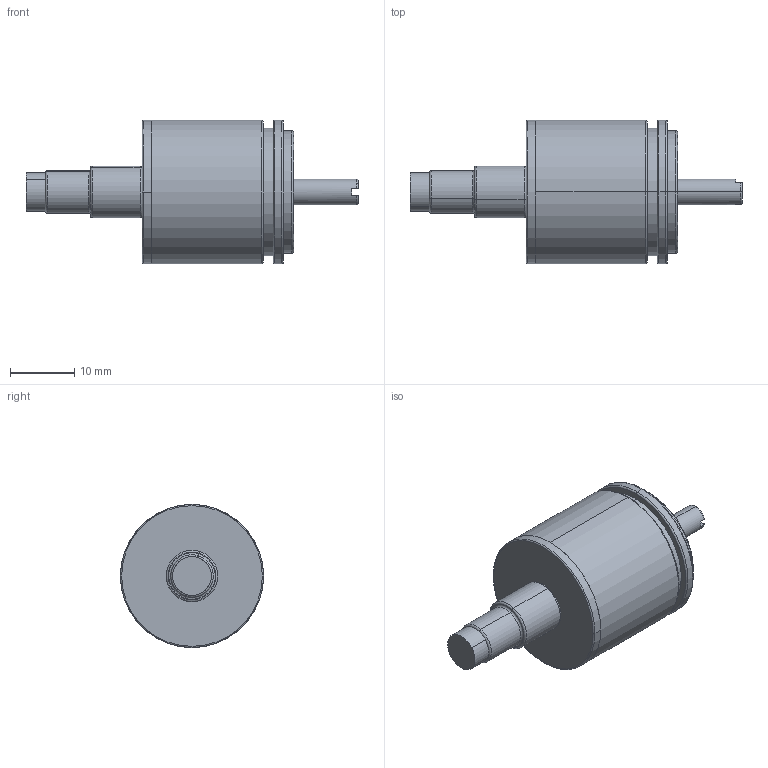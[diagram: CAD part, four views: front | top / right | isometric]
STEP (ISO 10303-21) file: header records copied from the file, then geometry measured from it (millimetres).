
FILE_DESCRIPTION (( 'STEP AP214' ), '1' );
FILE_NAME ('MAB22_axial.STEP', '2011-09-26T07:59:56', ( 'Mega' ), ( '' ), 'SwSTEP 2.0', 'SolidWorks 2007', '' );
FILE_SCHEMA (( 'AUTOMOTIVE_DESIGN' ));
Length unit declared in the file: millimetre
Products named in the file (1): MAB22_axial
Bounding box: 51.5 x 22.23 x 22.23 mm (x, y, z)
Surface area: 3665.5 mm2 (no closed solid volume)
Topology: 0 solids, 6 shells, 83 faces, 190 edges, 119 vertices
Faces by surface type: cylinder 30, torus 27, plane 18, cone 8
Entity records: 3320 total; most frequent: DIRECTION 488, CARTESIAN_POINT 417, ORIENTED_EDGE 352, AXIS2_PLACEMENT_3D 218, EDGE_CURVE 190, CIRCLE 134, VERTEX_POINT 119, EDGE_LOOP 97
